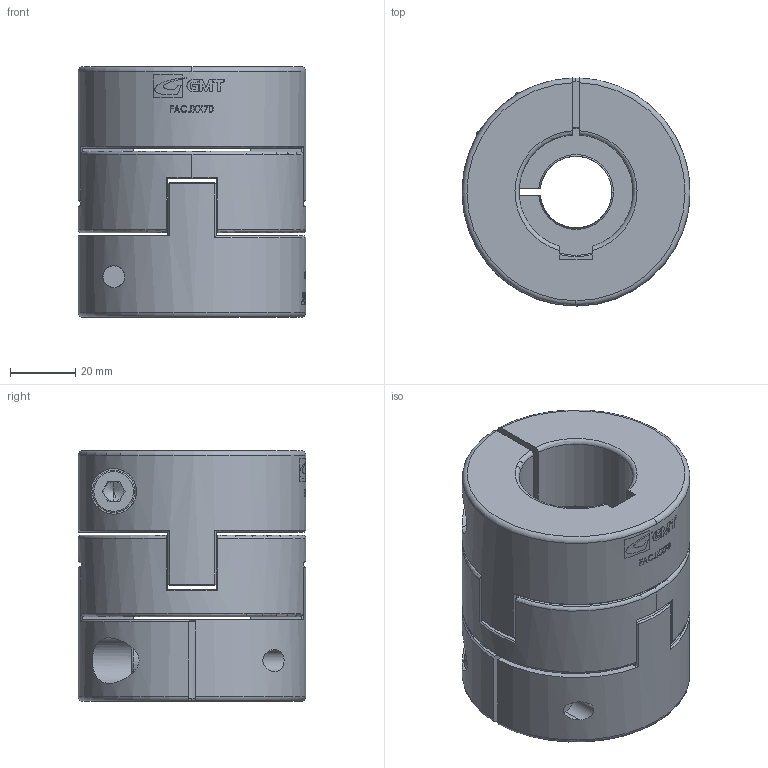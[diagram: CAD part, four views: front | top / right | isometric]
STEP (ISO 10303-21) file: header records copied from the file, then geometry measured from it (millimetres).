
FILE_DESCRIPTION (( 'STEP AP203' ), '1' );
FILE_NAME ('FACJRK70.STEP', '2008-04-04T08:36:53', ( '陳志豪' ), ( '高明鐵企業股份有限公司' ), 'SwSTEP 2.0', 'SolidWorks 2007', '' );
FILE_SCHEMA (( 'CONFIG_CONTROL_DESIGN' ));
Length unit declared in the file: millimetre
Products named in the file (1): FACJRK70
Bounding box: 70 x 70 x 77 mm (x, y, z)
Surface area: 48688.2 mm2 (no closed solid volume)
Topology: 0 solids, 14 shells, 241 faces, 1221 edges, 954 vertices
Faces by surface type: plane 109, cylinder 51, bspline 40, cone 24, torus 17
Entity records: 18302 total; most frequent: CARTESIAN_POINT 9972, ORIENTED_EDGE 1680, DIRECTION 1308, EDGE_CURVE 1217, VERTEX_POINT 954, B_SPLINE_CURVE_WITH_KNOTS 595, AXIS2_PLACEMENT_3D 486, VECTOR 336
